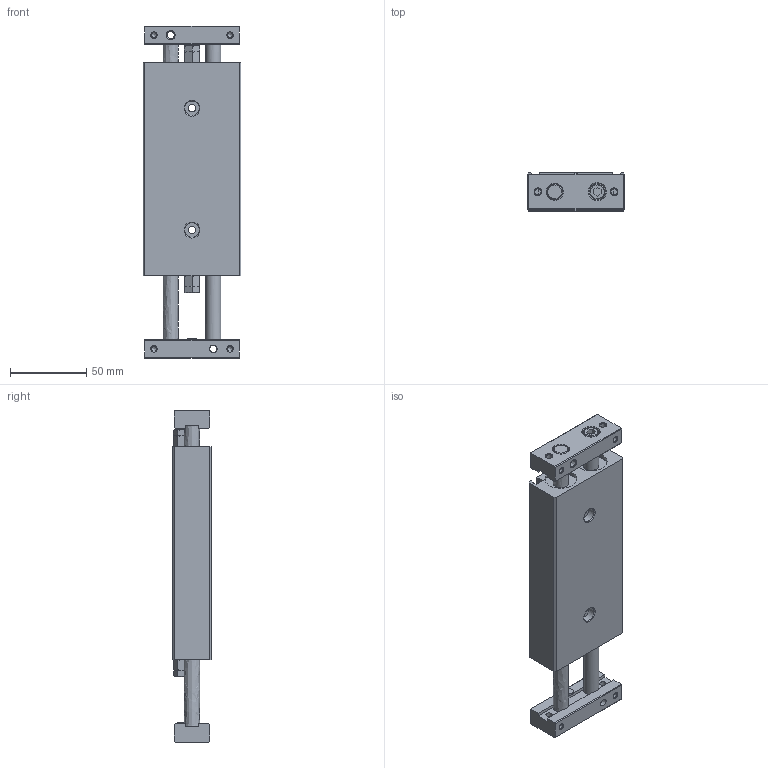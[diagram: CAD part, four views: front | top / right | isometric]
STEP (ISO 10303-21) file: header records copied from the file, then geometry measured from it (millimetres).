
FILE_DESCRIPTION((''),'2;1');
FILE_NAME('I:\3D電子目錄\氣缸\STX\STX\STX20\STX20x30.stp','2007-10-02T08:30:43',('Administrator'),(''),'Autodesk Inventor 11','Autodesk Inventor 11','');
FILE_SCHEMA(('AUTOMOTIVE_DESIGN { 1 0 10303 214 1 1 1 1 }'));
Length unit declared in the file: millimetre
Products named in the file (1): STX20
Bounding box: 64 x 25 x 218 mm (x, y, z)
Volume: 248966.6 mm3; surface area: 51112.7 mm2
Topology: 1 solids, 1 shells, 277 faces, 685 edges, 425 vertices
Faces by surface type: plane 133, cone 75, bspline 42, cylinder 23, torus 4
Full cylindrical faces by diameter (mm): 3.242 x4, 6 x2, 9.5 x2, 10 x6, 10.2 x2, 11 x1, 11.2 x1, 21 x2, 22.2 x2
Entity records: 7915 total; most frequent: CARTESIAN_POINT 2261, DIRECTION 1108, ORIENTED_EDGE 1106, EDGE_CURVE 553, AXIS2_PLACEMENT_3D 424, EDGE_LOOP 408, VERTEX_POINT 381, FACE_OUTER_BOUND 276
